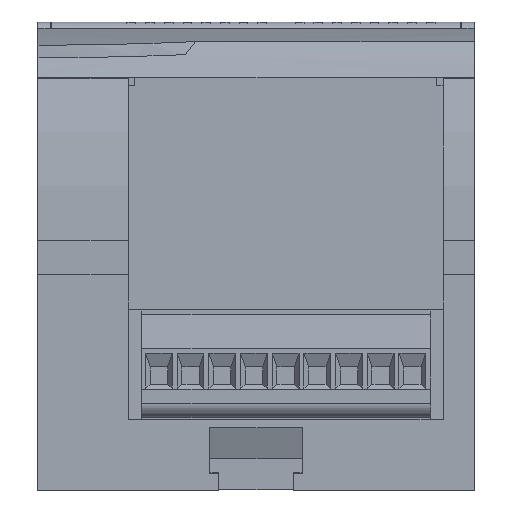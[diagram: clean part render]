
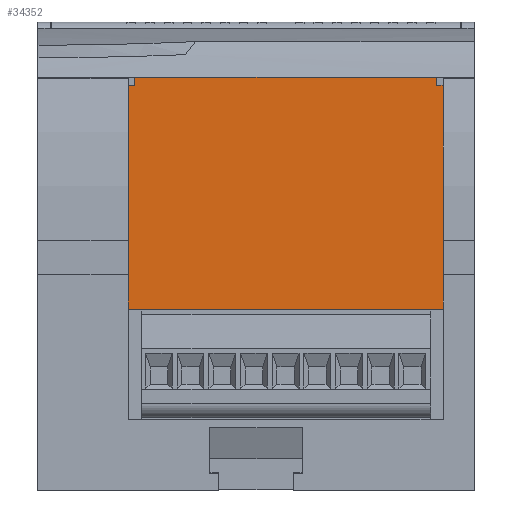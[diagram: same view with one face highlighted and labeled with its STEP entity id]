
A CAD part, front view. The second image highlights one B-rep face of the part: STEP entity #34352.
In plain terms, the highlighted planar face has unit normal (0, -1, -0.008).
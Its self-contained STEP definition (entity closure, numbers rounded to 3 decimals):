
#2631=LINE('',#63930,#5790);
#2635=LINE('',#63938,#5794);
#2696=LINE('',#64128,#5855);
#2704=LINE('',#64158,#5863);
#2705=LINE('',#64160,#5864);
#2706=LINE('',#64162,#5865);
#2707=LINE('',#64164,#5866);
#2708=LINE('',#64165,#5867);
#2709=LINE('',#64167,#5868);
#2710=LINE('',#64169,#5869);
#2711=LINE('',#64170,#5870);
#2712=LINE('',#64172,#5871);
#5790=VECTOR('',#47947,1000.);
#5794=VECTOR('',#47951,1000.);
#5855=VECTOR('',#48112,1000.);
#5863=VECTOR('',#48138,1000.);
#5864=VECTOR('',#48139,1000.);
#5865=VECTOR('',#48140,1000.);
#5866=VECTOR('',#48141,1000.);
#5867=VECTOR('',#48142,1000.);
#5868=VECTOR('',#48143,1000.);
#5869=VECTOR('',#48144,1000.);
#5870=VECTOR('',#48145,1000.);
#5871=VECTOR('',#48146,1000.);
#9299=PLANE('',#41677);
#15469=ORIENTED_EDGE('',*,*,#22460,.T.);
#15470=ORIENTED_EDGE('',*,*,#22461,.T.);
#15471=ORIENTED_EDGE('',*,*,#22462,.T.);
#15472=ORIENTED_EDGE('',*,*,#22463,.T.);
#15473=ORIENTED_EDGE('',*,*,#22346,.T.);
#15474=ORIENTED_EDGE('',*,*,#22464,.F.);
#15475=ORIENTED_EDGE('',*,*,#22465,.F.);
#15476=ORIENTED_EDGE('',*,*,#22466,.T.);
#15477=ORIENTED_EDGE('',*,*,#22342,.T.);
#15478=ORIENTED_EDGE('',*,*,#22467,.F.);
#15479=ORIENTED_EDGE('',*,*,#22468,.F.);
#15480=ORIENTED_EDGE('',*,*,#22445,.F.);
#22342=EDGE_CURVE('',#26296,#26295,#2631,.T.);
#22346=EDGE_CURVE('',#26300,#26299,#2635,.T.);
#22445=EDGE_CURVE('',#26379,#26380,#2696,.T.);
#22460=EDGE_CURVE('',#26379,#26392,#2704,.T.);
#22461=EDGE_CURVE('',#26392,#26393,#2705,.T.);
#22462=EDGE_CURVE('',#26393,#26394,#2706,.T.);
#22463=EDGE_CURVE('',#26394,#26300,#2707,.T.);
#22464=EDGE_CURVE('',#26395,#26299,#2708,.T.);
#22465=EDGE_CURVE('',#26396,#26395,#2709,.T.);
#22466=EDGE_CURVE('',#26396,#26296,#2710,.T.);
#22467=EDGE_CURVE('',#26397,#26295,#2711,.T.);
#22468=EDGE_CURVE('',#26380,#26397,#2712,.T.);
#26295=VERTEX_POINT('',#63929);
#26296=VERTEX_POINT('',#63931);
#26299=VERTEX_POINT('',#63937);
#26300=VERTEX_POINT('',#63939);
#26379=VERTEX_POINT('',#64129);
#26380=VERTEX_POINT('',#64130);
#26392=VERTEX_POINT('',#64159);
#26393=VERTEX_POINT('',#64161);
#26394=VERTEX_POINT('',#64163);
#26395=VERTEX_POINT('',#64166);
#26396=VERTEX_POINT('',#64168);
#26397=VERTEX_POINT('',#64171);
#29633=EDGE_LOOP('',(#15469,#15470,#15471,#15472,#15473,#15474,#15475,#15476,
#15477,#15478,#15479,#15480));
#31879=FACE_BOUND('',#29633,.T.);
#34352=ADVANCED_FACE('',(#31879),#9299,.F.);
#41677=AXIS2_PLACEMENT_3D('',#64157,#48136,#48137);
#47947=DIRECTION('',(-1.,0.,0.));
#47951=DIRECTION('',(-1.,0.,0.));
#48112=DIRECTION('',(0.,-0.008,1.));
#48136=DIRECTION('',(0.,1.,0.008));
#48137=DIRECTION('',(0.,-0.008,1.));
#48138=DIRECTION('',(-1.,0.,0.));
#48139=DIRECTION('',(0.,-0.008,1.));
#48140=DIRECTION('',(-1.,0.,0.));
#48141=DIRECTION('',(0.,0.008,-1.));
#48142=DIRECTION('',(0.,-0.008,1.));
#48143=DIRECTION('',(-1.,0.,0.));
#48144=DIRECTION('',(0.,-0.008,1.));
#48145=DIRECTION('',(0.,0.008,-1.));
#48146=DIRECTION('',(1.,0.,0.));
#63929=CARTESIAN_POINT('',(67.966,14.,34.5));
#63930=CARTESIAN_POINT('',(16.083,14.,34.5));
#63931=CARTESIAN_POINT('',(68.027,14.,34.5));
#63937=CARTESIAN_POINT('',(2.727,14.,34.5));
#63938=CARTESIAN_POINT('',(16.083,14.,34.5));
#63939=CARTESIAN_POINT('',(14.027,14.,34.5));
#64128=CARTESIAN_POINT('',(67.8,13.712,71.617));
#64129=CARTESIAN_POINT('',(67.8,13.756,65.933));
#64130=CARTESIAN_POINT('',(67.8,13.744,67.442));
#64157=CARTESIAN_POINT('',(67.966,13.734,68.716));
#64158=CARTESIAN_POINT('',(66.3,13.756,65.933));
#64159=CARTESIAN_POINT('',(66.3,13.756,65.933));
#64160=CARTESIAN_POINT('',(66.3,13.734,68.716));
#64161=CARTESIAN_POINT('',(66.3,13.734,68.716));
#64162=CARTESIAN_POINT('',(67.966,13.734,68.716));
#64163=CARTESIAN_POINT('',(14.027,13.734,68.716));
#64164=CARTESIAN_POINT('',(14.027,13.734,68.716));
#64165=CARTESIAN_POINT('',(2.727,14.043,28.9));
#64166=CARTESIAN_POINT('',(2.727,14.043,28.9));
#64167=CARTESIAN_POINT('',(68.027,14.043,28.9));
#64168=CARTESIAN_POINT('',(68.027,14.043,28.9));
#64169=CARTESIAN_POINT('',(68.027,14.043,28.9));
#64170=CARTESIAN_POINT('',(67.966,13.734,68.716));
#64171=CARTESIAN_POINT('',(67.966,13.744,67.442));
#64172=CARTESIAN_POINT('',(67.8,13.744,67.442));
